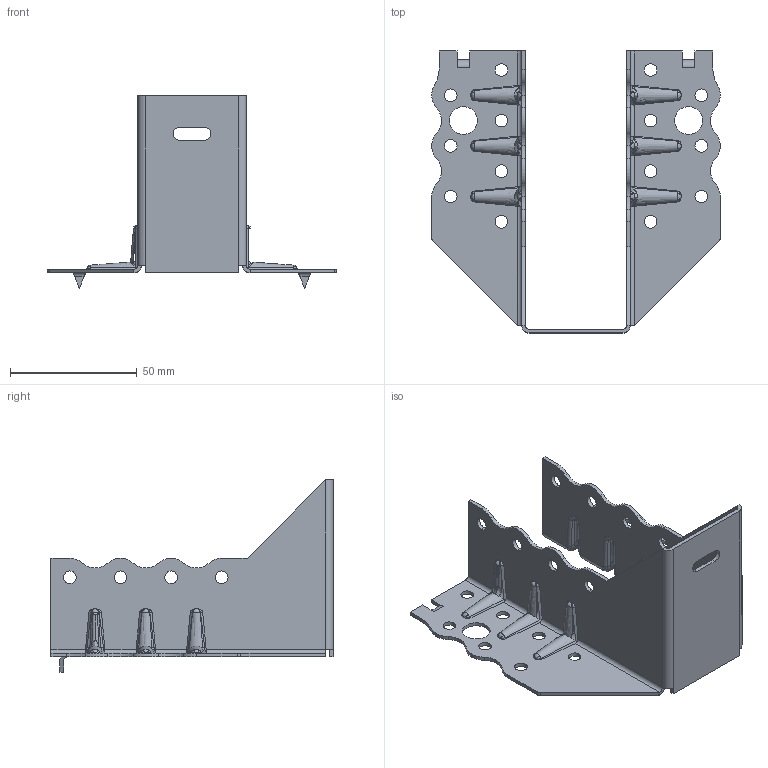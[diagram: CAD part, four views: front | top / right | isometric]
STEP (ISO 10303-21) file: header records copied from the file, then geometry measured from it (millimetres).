
FILE_DESCRIPTION (( 'STEP AP203' ), '1' );
FILE_NAME ('30601TOP.STEP', '2020-10-01T10:41:53', ( '' ), ( '' ), 'SwSTEP 2.0', 'SolidWorks 2013', '' );
FILE_SCHEMA (( 'CONFIG_CONTROL_DESIGN' ));
Length unit declared in the file: millimetre
Products named in the file (1): 30601TOP
Bounding box: 114 x 111.5 x 76 mm (x, y, z)
Volume: 26871.9 mm3; surface area: 37728.8 mm2
Topology: 1 solids, 1 shells, 476 faces, 1218 edges, 732 vertices
Faces by surface type: cylinder 180, bspline 174, plane 104, cone 18
Entity records: 28970 total; most frequent: CARTESIAN_POINT 18846, ORIENTED_EDGE 2412, DIRECTION 1530, EDGE_CURVE 1206, VERTEX_POINT 732, AXIS2_PLACEMENT_3D 533, EDGE_LOOP 526, B_SPLINE_CURVE_WITH_KNOTS 480
